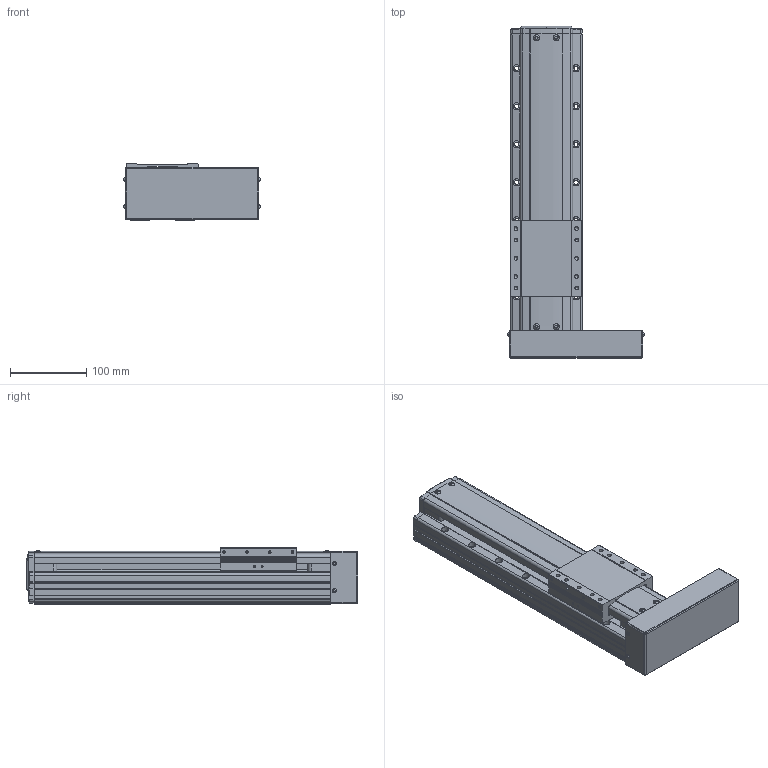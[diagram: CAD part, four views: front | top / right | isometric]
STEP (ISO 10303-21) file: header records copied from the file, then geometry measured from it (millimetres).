
FILE_DESCRIPTION(('STEP AP214'),'1');
FILE_NAME('Z:/Web/3D/PSA95/STP/PSA95-200 (3D)/PSA95ㅁㅁ-200PR.stp','2014-07-02T23:52:19',(' '),(' '),'Spatial InterOp 3D',' ',' ');
FILE_SCHEMA(('automotive_design'));
Length unit declared in the file: millimetre
Products named in the file (23): BASE; RRCV; 스크루 : Round - M4.0 x 10.0; 너트 : Square - M10.0 x 220.7419; RR1500; FRCV-090; 스크루 : Round - M4.0 x 6.0; SLBL-PA90; MOTOR PLATE COVER; 스크루 : Round - M3.0 x 6.0
Bounding box: 179.13 x 436.5 x 74 mm (x, y, z)
Volume: 2640131.4 mm3; surface area: 302001.9 mm2
Topology: 23 solids, 23 shells, 1847 faces, 4958 edges, 3164 vertices
Faces by surface type: plane 1047, cylinder 543, cone 177, sphere 42, bspline 24, torus 14
Entity records: 74522 total; most frequent: CARTESIAN_POINT 12891, DIRECTION 9728, ORIENTED_EDGE 9684, EDGE_CURVE 4842, LINE 3338, VECTOR 3338, AXIS2_PLACEMENT_3D 3195, VERTEX_POINT 3164
